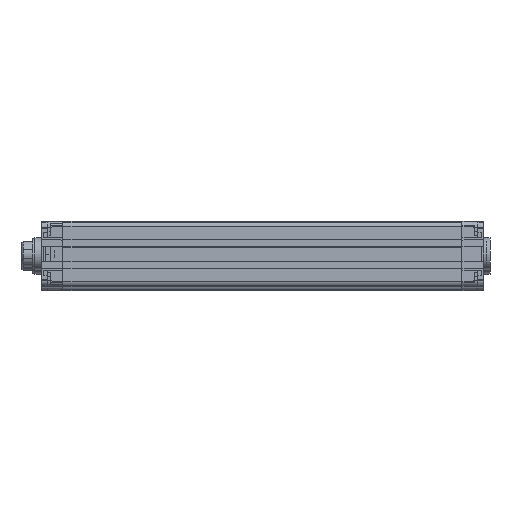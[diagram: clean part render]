
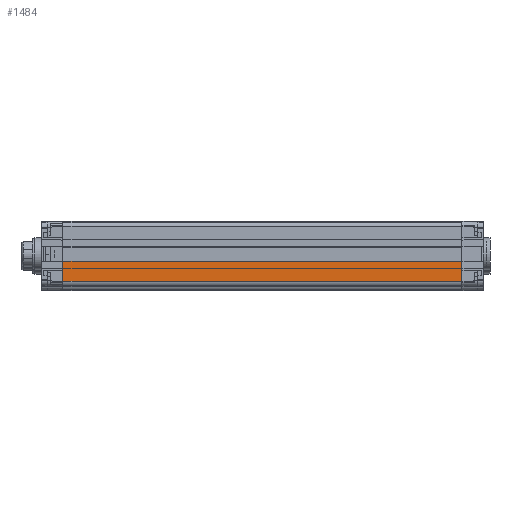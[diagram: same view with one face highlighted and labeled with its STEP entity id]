
A CAD part, top view. The second image highlights one B-rep face of the part: STEP entity #1484.
In plain terms, the highlighted planar face has unit normal (0, 0, 1).
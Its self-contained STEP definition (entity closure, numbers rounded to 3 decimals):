
#1484=ADVANCED_FACE('',(#2024),#11281,.T.);
#2024=FACE_OUTER_BOUND('',#2543,.T.);
#2543=EDGE_LOOP('',(#5810,#5811,#5812,#5813));
#3116=LINE('',#15606,#4289);
#3214=LINE('',#15822,#4387);
#3300=LINE('',#16002,#4473);
#3301=LINE('',#16003,#4474);
#4289=VECTOR('',#12581,1.);
#4387=VECTOR('',#12715,1.);
#4473=VECTOR('',#12901,1.);
#4474=VECTOR('',#12902,1.);
#5810=ORIENTED_EDGE('',*,*,#9577,.F.);
#5811=ORIENTED_EDGE('',*,*,#9669,.T.);
#5812=ORIENTED_EDGE('',*,*,#9468,.T.);
#5813=ORIENTED_EDGE('',*,*,#9670,.F.);
#8475=VERTEX_POINT('',#15605);
#8476=VERTEX_POINT('',#15607);
#8575=VERTEX_POINT('',#15821);
#8576=VERTEX_POINT('',#15823);
#9468=EDGE_CURVE('',#8476,#8475,#3116,.T.);
#9577=EDGE_CURVE('',#8575,#8576,#3214,.T.);
#9669=EDGE_CURVE('',#8575,#8476,#3300,.T.);
#9670=EDGE_CURVE('',#8576,#8475,#3301,.T.);
#11281=PLANE('',#11723);
#11723=AXIS2_PLACEMENT_3D('',#16004,#12903,#12904);
#12581=DIRECTION('',(0.,-1.,0.));
#12715=DIRECTION('',(0.,-1.,0.));
#12901=DIRECTION('',(-1.,0.,0.));
#12902=DIRECTION('',(-1.,0.,0.));
#12903=DIRECTION('',(0.,0.,1.));
#12904=DIRECTION('',(0.,-1.,0.));
#15605=CARTESIAN_POINT('',(0.,-12.65,15.65));
#15606=CARTESIAN_POINT('',(0.,-3.25,15.65));
#15607=CARTESIAN_POINT('',(0.,-3.25,15.65));
#15821=CARTESIAN_POINT('',(185.,-3.25,15.65));
#15822=CARTESIAN_POINT('',(185.,-3.25,15.65));
#15823=CARTESIAN_POINT('',(185.,-12.65,15.65));
#16002=CARTESIAN_POINT('',(1020.,-3.25,15.65));
#16003=CARTESIAN_POINT('',(1020.,-12.65,15.65));
#16004=CARTESIAN_POINT('',(0.,15.15,15.65));
